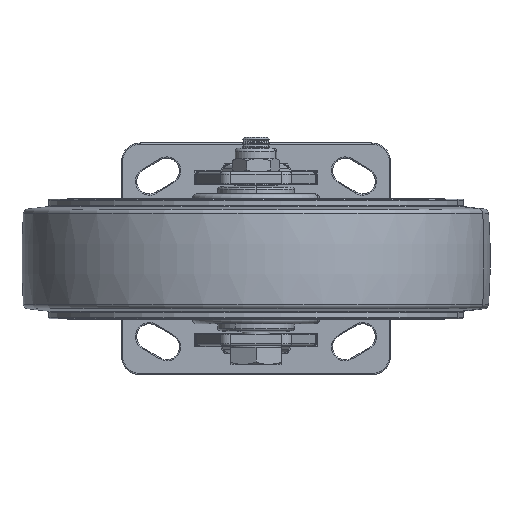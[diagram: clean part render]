
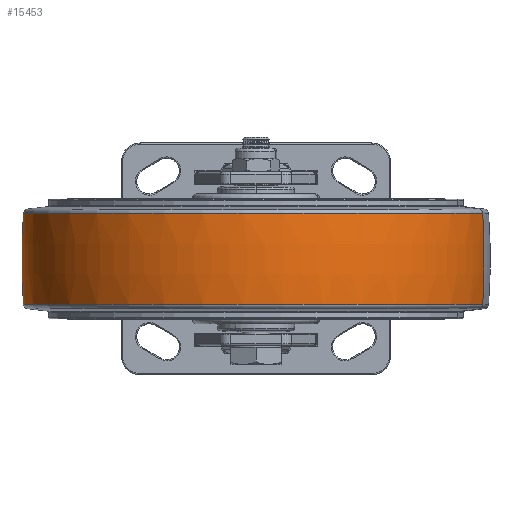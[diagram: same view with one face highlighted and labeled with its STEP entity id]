
A CAD part, front view. The second image highlights one B-rep face of the part: STEP entity #15453.
In plain terms, the highlighted toroidal (fillet/blend) face has major radius 282.004 mm and minor radius 383.004 mm.
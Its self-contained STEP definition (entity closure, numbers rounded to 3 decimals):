
#335 = EDGE_CURVE ( 'NONE', #3093, #6426, #8936, .T. ) ;
#1833 = AXIS2_PLACEMENT_3D ( 'NONE', #28775, #11312, #28410 ) ;
#2684 = AXIS2_PLACEMENT_3D ( 'NONE', #3153, #31981, #5813 ) ;
#3093 = VERTEX_POINT ( 'NONE', #15893 ) ;
#3153 = CARTESIAN_POINT ( 'NONE',  ( 0., 0., 19.615 ) ) ;
#5008 = CIRCLE ( 'NONE', #2684, 100.497 ) ;
#5237 = AXIS2_PLACEMENT_3D ( 'NONE', #31110, #30862, #16082 ) ;
#5711 = CARTESIAN_POINT ( 'NONE',  ( 100.497, 0., 19.615 ) ) ;
#5813 = DIRECTION ( 'NONE',  ( 1., 0., 0. ) ) ;
#6426 = VERTEX_POINT ( 'NONE', #34126 ) ;
#6629 = DIRECTION ( 'NONE',  ( 0., 0., 1. ) ) ;
#7968 = CARTESIAN_POINT ( 'NONE',  ( 0., 0., 0. ) ) ;
#8936 = CIRCLE ( 'NONE', #21222, 100.497 ) ;
#10024 = EDGE_CURVE ( 'NONE', #34301, #26609, #5008, .T. ) ;
#10740 = ORIENTED_EDGE ( 'NONE', *, *, #32154, .T. ) ;
#11050 = AXIS2_PLACEMENT_3D ( 'NONE', #7968, #19427, #19294 ) ;
#11312 = DIRECTION ( 'NONE',  ( 0., -1., 0. ) ) ;
#11353 = ORIENTED_EDGE ( 'NONE', *, *, #10024, .F. ) ;
#11620 = ORIENTED_EDGE ( 'NONE', *, *, #335, .T. ) ;
#12414 = FACE_OUTER_BOUND ( 'NONE', #22163, .T. ) ;
#14972 = DIRECTION ( 'NONE',  ( 1., 0., 0. ) ) ;
#15391 = EDGE_CURVE ( 'NONE', #3093, #34301, #21128, .T. ) ;
#15453 = ADVANCED_FACE ( 'NONE', ( #12414 ), #33802, .T. ) ;
#15893 = CARTESIAN_POINT ( 'NONE',  ( -100.497, 0., -19.615 ) ) ;
#16082 = DIRECTION ( 'NONE',  ( -1., 0., 0. ) ) ;
#16655 = ORIENTED_EDGE ( 'NONE', *, *, #15391, .F. ) ;
#19294 = DIRECTION ( 'NONE',  ( -1., 0., 0. ) ) ;
#19427 = DIRECTION ( 'NONE',  ( 0., 0., 1. ) ) ;
#20393 = CIRCLE ( 'NONE', #1833, 383.004 ) ;
#21116 = CARTESIAN_POINT ( 'NONE',  ( -100.497, 0., 19.615 ) ) ;
#21128 = CIRCLE ( 'NONE', #5237, 383.004 ) ;
#21222 = AXIS2_PLACEMENT_3D ( 'NONE', #32409, #6629, #14972 ) ;
#22163 = EDGE_LOOP ( 'NONE', ( #16655, #11620, #10740, #11353 ) ) ;
#26609 = VERTEX_POINT ( 'NONE', #5711 ) ;
#28410 = DIRECTION ( 'NONE',  ( 0., 0., -1. ) ) ;
#28775 = CARTESIAN_POINT ( 'NONE',  ( -282.004, 0., 0. ) ) ;
#30862 = DIRECTION ( 'NONE',  ( 0., 1., 0. ) ) ;
#31110 = CARTESIAN_POINT ( 'NONE',  ( 282.004, 0., 0. ) ) ;
#31981 = DIRECTION ( 'NONE',  ( 0., 0., 1. ) ) ;
#32154 = EDGE_CURVE ( 'NONE', #6426, #26609, #20393, .T. ) ;
#32409 = CARTESIAN_POINT ( 'NONE',  ( 0., 0., -19.615 ) ) ;
#33802 = TOROIDAL_SURFACE ( 'NONE', #11050, -282.004, 383.004 ) ;
#34126 = CARTESIAN_POINT ( 'NONE',  ( 100.497, 0., -19.615 ) ) ;
#34301 = VERTEX_POINT ( 'NONE', #21116 ) ;
